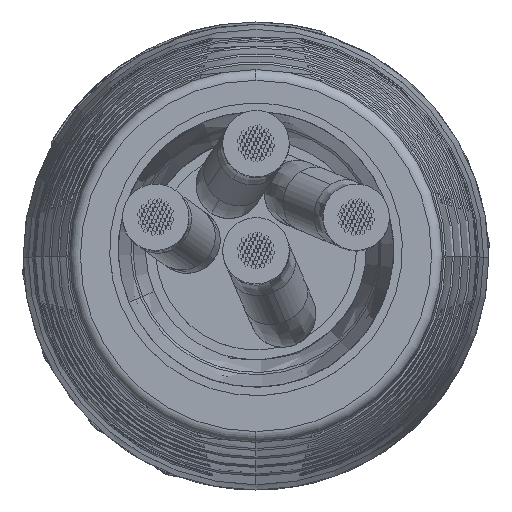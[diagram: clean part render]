
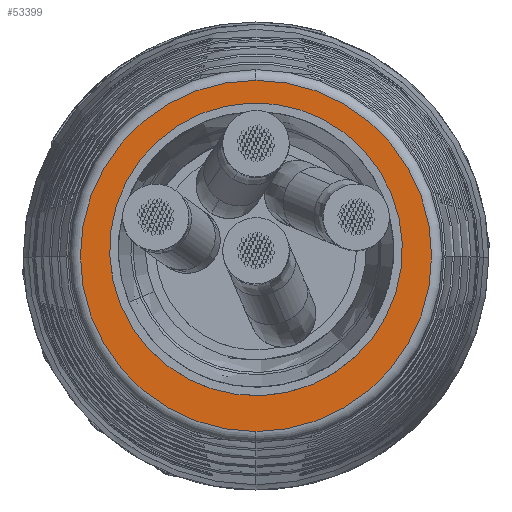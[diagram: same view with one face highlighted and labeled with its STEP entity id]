
A CAD part, top view. The second image highlights one B-rep face of the part: STEP entity #53399.
In plain terms, the highlighted planar face has unit normal (0, 0, 1).
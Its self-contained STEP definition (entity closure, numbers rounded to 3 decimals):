
#932 = ORIENTED_EDGE ( 'NONE', *, *, #16446, .F. ) ;
#2159 = AXIS2_PLACEMENT_3D ( 'NONE', #94897, #18002, #48666 ) ;
#5064 = CIRCLE ( 'NONE', #61194, 8.192 ) ;
#16446 = EDGE_CURVE ( 'NONE', #28371, #31126, #5064, .T. ) ;
#18002 = DIRECTION ( 'NONE',  ( 0., 0., 1. ) ) ;
#18326 = DIRECTION ( 'NONE',  ( 0., 1., 0. ) ) ;
#23326 = DIRECTION ( 'NONE',  ( 0., 0., -1. ) ) ;
#26816 = EDGE_CURVE ( 'NONE', #31126, #28371, #48491, .T. ) ;
#28371 = VERTEX_POINT ( 'NONE', #46734 ) ;
#31126 = VERTEX_POINT ( 'NONE', #47506 ) ;
#40597 = FACE_OUTER_BOUND ( 'NONE', #50557, .T. ) ;
#45928 = CARTESIAN_POINT ( 'NONE',  ( -1.199, -1.014, -219.882 ) ) ;
#46734 = CARTESIAN_POINT ( 'NONE',  ( -1.199, -9.206, -219.882 ) ) ;
#47506 = CARTESIAN_POINT ( 'NONE',  ( -1.199, 7.177, -219.882 ) ) ;
#48491 = CIRCLE ( 'NONE', #75848, 8.192 ) ;
#48495 = DIRECTION ( 'NONE',  ( 0., 0., -1. ) ) ;
#48666 = DIRECTION ( 'NONE',  ( 0., 1., 0. ) ) ;
#50557 = EDGE_LOOP ( 'NONE', ( #59697, #932 ) ) ;
#53399 = ADVANCED_FACE ( 'NONE', ( #40597 ), #86815, .T. ) ;
#59697 = ORIENTED_EDGE ( 'NONE', *, *, #26816, .F. ) ;
#61194 = AXIS2_PLACEMENT_3D ( 'NONE', #45928, #23326, #76630 ) ;
#62659 = CARTESIAN_POINT ( 'NONE',  ( -1.199, -1.014, -219.882 ) ) ;
#75848 = AXIS2_PLACEMENT_3D ( 'NONE', #62659, #48495, #18326 ) ;
#76630 = DIRECTION ( 'NONE',  ( 0., 1., 0. ) ) ;
#86815 = PLANE ( 'NONE',  #2159 ) ;
#94897 = CARTESIAN_POINT ( 'NONE',  ( 9.301, 9.486, -219.882 ) ) ;
